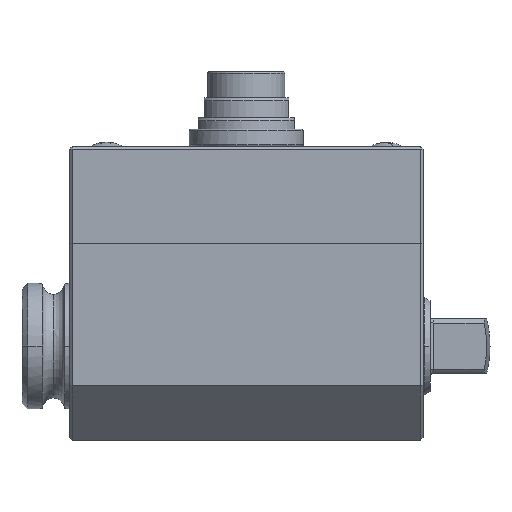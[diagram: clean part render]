
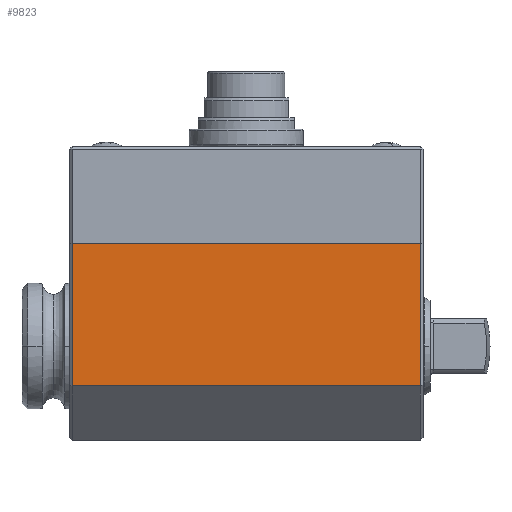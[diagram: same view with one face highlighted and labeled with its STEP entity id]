
A CAD part, top view. The second image highlights one B-rep face of the part: STEP entity #9823.
In plain terms, the highlighted planar face has unit normal (0, 0, 1).
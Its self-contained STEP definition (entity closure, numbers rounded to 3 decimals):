
#300 = AXIS2_PLACEMENT_3D ( 'NONE', #6552, #5569, #3218 ) ;
#657 = LINE ( 'NONE', #8556, #7374 ) ;
#754 = ORIENTED_EDGE ( 'NONE', *, *, #3314, .T. ) ;
#936 = CARTESIAN_POINT ( 'NONE',  ( -0.5, 17.25, 17. ) ) ;
#1045 = VERTEX_POINT ( 'NONE', #7220 ) ;
#1419 = LINE ( 'NONE', #7987, #1664 ) ;
#1664 = VECTOR ( 'NONE', #7520, 1000. ) ;
#1720 = PLANE ( 'NONE',  #300 ) ;
#1832 = DIRECTION ( 'NONE',  ( 1., 0., 0. ) ) ;
#1872 = LINE ( 'NONE', #8039, #9642 ) ;
#2254 = CARTESIAN_POINT ( 'NONE',  ( -62., -7.75, 17. ) ) ;
#2781 = VERTEX_POINT ( 'NONE', #3070 ) ;
#3070 = CARTESIAN_POINT ( 'NONE',  ( -61.5, -7.75, 17. ) ) ;
#3218 = DIRECTION ( 'NONE',  ( 0., -1., 0. ) ) ;
#3294 = LINE ( 'NONE', #2254, #9486 ) ;
#3314 = EDGE_CURVE ( 'NONE', #4474, #2781, #1419, .T. ) ;
#4424 = EDGE_CURVE ( 'NONE', #2781, #1045, #3294, .T. ) ;
#4474 = VERTEX_POINT ( 'NONE', #5368 ) ;
#4739 = EDGE_CURVE ( 'NONE', #1045, #9593, #1872, .T. ) ;
#4804 = ORIENTED_EDGE ( 'NONE', *, *, #4424, .T. ) ;
#4931 = DIRECTION ( 'NONE',  ( 1., 0., 0. ) ) ;
#5068 = EDGE_CURVE ( 'NONE', #4474, #9593, #657, .T. ) ;
#5368 = CARTESIAN_POINT ( 'NONE',  ( -61.5, 17.25, 17. ) ) ;
#5569 = DIRECTION ( 'NONE',  ( 0., 0., 1. ) ) ;
#6326 = ORIENTED_EDGE ( 'NONE', *, *, #5068, .F. ) ;
#6552 = CARTESIAN_POINT ( 'NONE',  ( -62., 17.25, 17. ) ) ;
#6740 = DIRECTION ( 'NONE',  ( 0., 1., 0. ) ) ;
#7220 = CARTESIAN_POINT ( 'NONE',  ( -0.5, -7.75, 17. ) ) ;
#7374 = VECTOR ( 'NONE', #4931, 1000. ) ;
#7480 = FACE_OUTER_BOUND ( 'NONE', #9974, .T. ) ;
#7520 = DIRECTION ( 'NONE',  ( 0., -1., 0. ) ) ;
#7987 = CARTESIAN_POINT ( 'NONE',  ( -61.5, -7.75, 17. ) ) ;
#8039 = CARTESIAN_POINT ( 'NONE',  ( -0.5, 17.25, 17. ) ) ;
#8556 = CARTESIAN_POINT ( 'NONE',  ( -62., 17.25, 17. ) ) ;
#9486 = VECTOR ( 'NONE', #1832, 1000. ) ;
#9593 = VERTEX_POINT ( 'NONE', #936 ) ;
#9642 = VECTOR ( 'NONE', #6740, 1000. ) ;
#9687 = ORIENTED_EDGE ( 'NONE', *, *, #4739, .T. ) ;
#9823 = ADVANCED_FACE ( 'NONE', ( #7480 ), #1720, .T. ) ;
#9974 = EDGE_LOOP ( 'NONE', ( #6326, #754, #4804, #9687 ) ) ;
